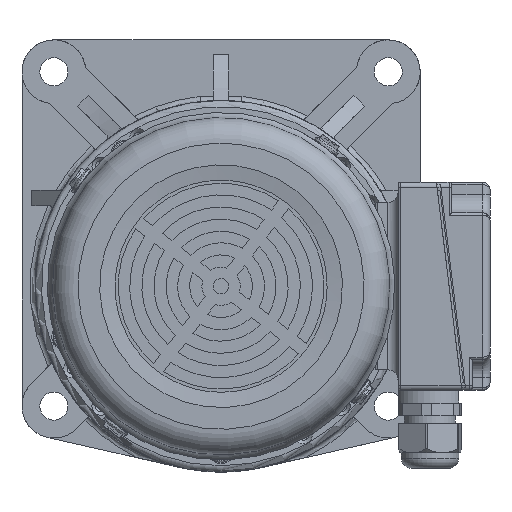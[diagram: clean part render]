
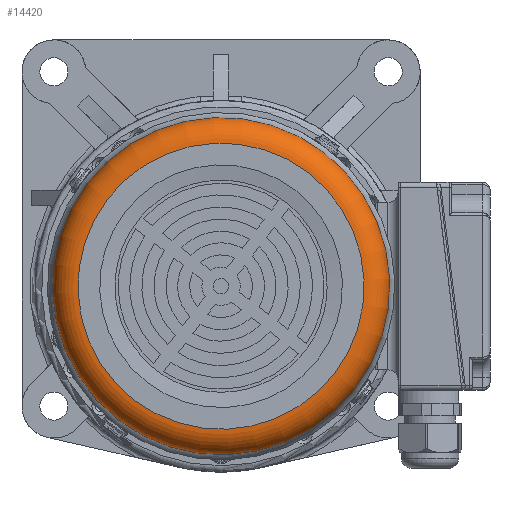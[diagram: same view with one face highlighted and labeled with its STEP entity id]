
A CAD part, left-side view. The second image highlights one B-rep face of the part: STEP entity #14420.
In plain terms, the highlighted toroidal (fillet/blend) face has major radius 56 mm and minor radius 10 mm.
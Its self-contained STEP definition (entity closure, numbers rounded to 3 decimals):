
#1548=TOROIDAL_SURFACE('',#59335,56.,10.);
#1759=FACE_BOUND('',#21026,.T.);
#1760=FACE_BOUND('',#21027,.T.);
#14420=ADVANCED_FACE('',(#1759,#1760),#1548,.T.);
#21026=EDGE_LOOP('',(#29473));
#21027=EDGE_LOOP('',(#29474));
#29473=ORIENTED_EDGE('',*,*,#49718,.T.);
#29474=ORIENTED_EDGE('',*,*,#48026,.F.);
#42414=VERTEX_POINT('',#79557);
#43522=VERTEX_POINT('',#86224);
#48026=EDGE_CURVE('',#42414,#42414,#56000,.T.);
#49718=EDGE_CURVE('',#43522,#43522,#56597,.T.);
#56000=CIRCLE('',#58179,56.);
#56597=CIRCLE('',#59334,66.);
#58179=AXIS2_PLACEMENT_3D('',#79556,#64072,#64073);
#59334=AXIS2_PLACEMENT_3D('',#86223,#67192,#67193);
#59335=AXIS2_PLACEMENT_3D('',#86225,#67194,#67195);
#64072=DIRECTION('',(-1.,0.,0.));
#64073=DIRECTION('',(0.,-0.609,0.793));
#67192=DIRECTION('',(-1.,0.,0.));
#67193=DIRECTION('',(0.,-0.609,0.793));
#67194=DIRECTION('',(-1.,0.,0.));
#67195=DIRECTION('',(0.,-0.609,0.793));
#79556=CARTESIAN_POINT('',(-4.634,566.387,-703.587));
#79557=CARTESIAN_POINT('',(-4.634,532.296,-659.159));
#86223=CARTESIAN_POINT('',(5.366,566.387,-703.587));
#86224=CARTESIAN_POINT('',(5.366,526.209,-651.225));
#86225=CARTESIAN_POINT('',(5.366,566.387,-703.587));
